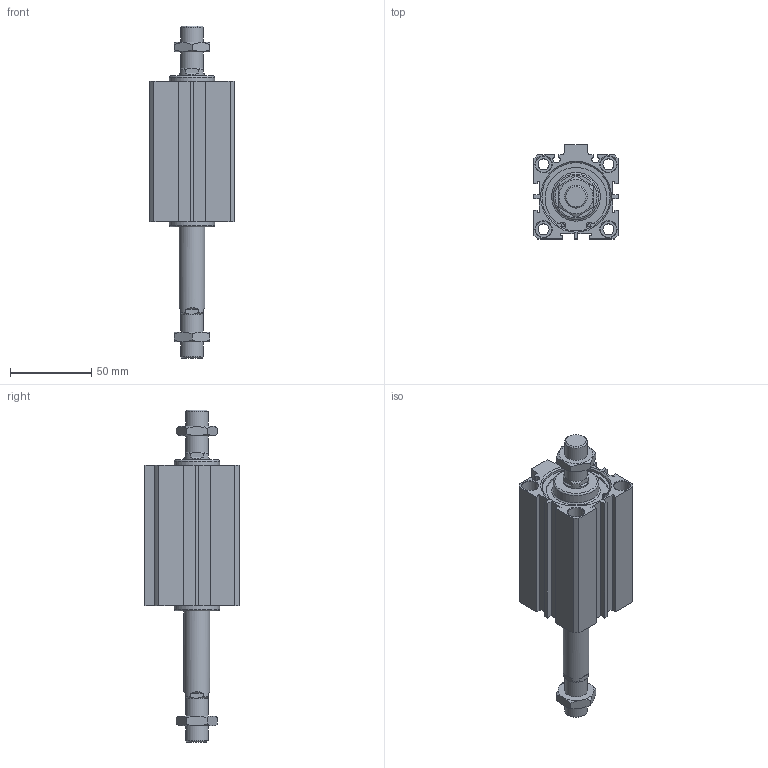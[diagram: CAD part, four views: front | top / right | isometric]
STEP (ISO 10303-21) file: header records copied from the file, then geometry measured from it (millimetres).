
FILE_DESCRIPTION((''),'2;1');
FILE_NAME('I:\3D電子目錄\氣缸\JDD\JDD-BS\JDD40-BS\JDD40x50-BS.stp','2007-02-27T14:38:38',('662F206'),(''),'Autodesk Inventor 10','Autodesk Inventor 10','');
FILE_SCHEMA(('AUTOMOTIVE_DESIGN { 1 0 10303 214 1 1 1 1 }'));
Length unit declared in the file: millimetre
Products named in the file (3): JDD40-BS; R 形環 42
Assembly tree (3 placements, depth 2):
  JDD40-BS
    JDD40-BS
    R 形環 42  x2
Bounding box: 52 x 58 x 204.5 mm (x, y, z)
Volume: 228502.1 mm3; surface area: 50312.8 mm2
Topology: 3 solids, 3 shells, 206 faces, 486 edges, 312 vertices
Faces by surface type: plane 114, cylinder 50, cone 38, bspline 2, torus 2
Full cylindrical faces by diameter (mm): 1.9 x4, 2.2 x2, 6.8 x4, 10 x8, 14 x4, 16 x2, 28 x2, 42 x4, 44.5 x2
Entity records: 5343 total; most frequent: CARTESIAN_POINT 1072, DIRECTION 880, ORIENTED_EDGE 792, EDGE_CURVE 396, AXIS2_PLACEMENT_3D 338, VERTEX_POINT 284, EDGE_LOOP 284, VECTOR 204
